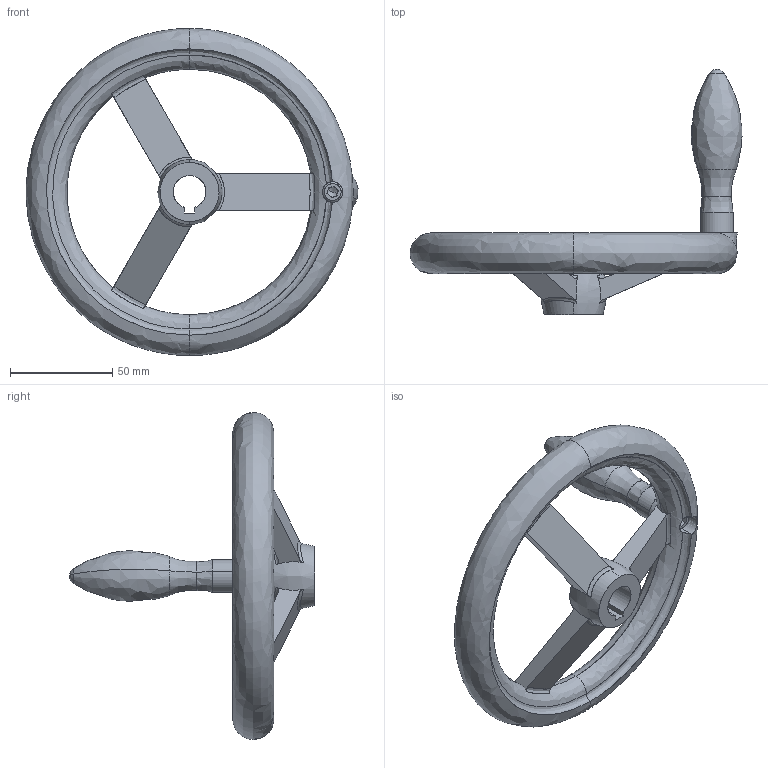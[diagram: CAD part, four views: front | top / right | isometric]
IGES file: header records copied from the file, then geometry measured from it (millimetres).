
Start section: SolidWorks IGES file using analytic representation for surfaces
Global section: file name: C:\Users\IanO\Desktop\Temp File\Process pending\77120_v2\77120_v2_20171108_IGES\Default.igs; native system: SolidWorks 2017; preprocessor: SolidWorks 2017; author: IanO; date: 171108.082957; units: millimetre
Bounding box: 162.37 x 120 x 160 mm (x, y, z)
Surface area: 44811.9 mm2 (no closed solid volume)
Topology: 0 solids, 0 shells, 125 faces, 1558 edges, 1549 vertices
Faces by surface type: bspline 76, revolution 49
